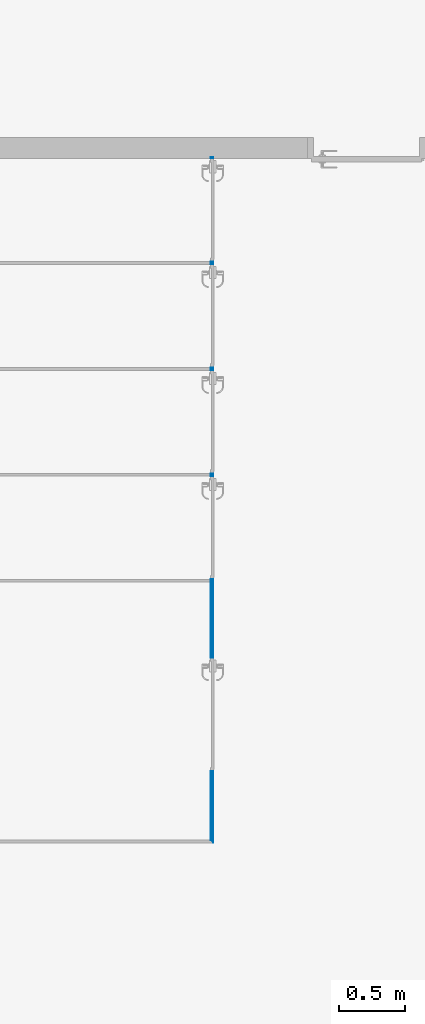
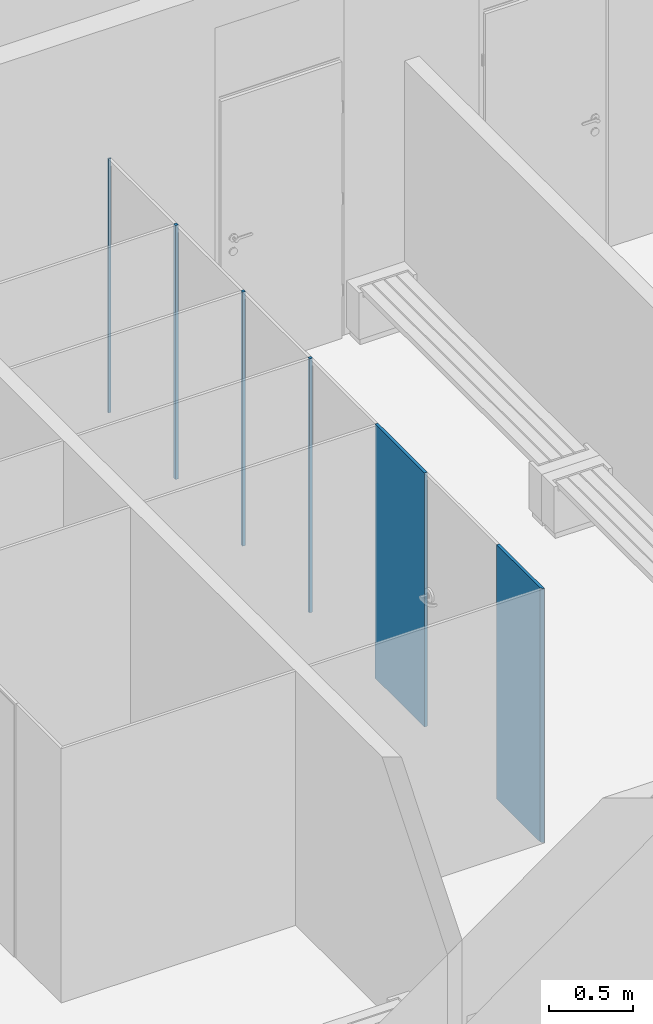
# One storey, part 19 of 45: 1 wall, 5 openings.
"""IFC2X3 building model written with IfcOpenShell, lengths in metres."""

from ifc_helpers import new_model, entity, si_unit, converted_unit, money_unit, direction, frame, origin_with_axes, place, context, subcontext, project, spatial, polyline, outline, extrude, material, layer, layer_set, layer_usage, type_object, element, save


model = new_model("IFC2X3")

# Units and contexts
model_context = context("Model", 3, precision=1e-05, world=origin_with_axes(), true_north=direction((0.0, 1.0)))
body_context = subcontext(model_context, "Body", "Model", "MODEL_VIEW")
ifc_project = project(units=[si_unit("LENGTHUNIT", "METRE"), si_unit("AREAUNIT", "SQUARE_METRE"), si_unit("VOLUMEUNIT", "CUBIC_METRE"), converted_unit("PLANEANGLEUNIT", "DEGREE", entity("IfcPlaneAngleMeasure", 0.0174532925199), si_unit("PLANEANGLEUNIT", "RADIAN"), dimensions=[0, 0, 0, 0, 0, 0, 0]), si_unit("SOLIDANGLEUNIT", "STERADIAN"), money_unit("EUR"), converted_unit("TIMEUNIT", "Year", entity("IfcTimeMeasure", 31556926.0), si_unit("TIMEUNIT", "SECOND"), dimensions=[0, 0, 0, 0, 0, 0, 0]), si_unit("MASSUNIT", "GRAM"), si_unit("THERMODYNAMICTEMPERATUREUNIT", "DEGREE_CELSIUS"), si_unit("LUMINOUSINTENSITYUNIT", "LUMEN")], contexts=[model_context])

# Site, building, storey
site_placement = place(None, origin_with_axes())
site = spatial("IfcSite", under=ifc_project, at=site_placement, Name="Site", CompositionType="ELEMENT")
building_placement = place(site_placement, origin_with_axes())
building = spatial("IfcBuilding", under=site, at=building_placement, Name="Bâtiment", CompositionType="ELEMENT")
storey_placement = place(building_placement, origin_with_axes())
storey = spatial("IfcBuildingStorey", under=building, at=storey_placement, Name="NIVEAU BAS GYMNASE", CompositionType="ELEMENT", Elevation=0.0)

# Wall, openings
ifc_material = material(Name="Hachure solide 3821565075")
ifc_layer = layer(ifc_material, 0.02, ventilated="UNKNOWN")
ifc_layer_set = layer_set([ifc_layer], Name="Hachure solide 3821565075 0.02")
ifc_layer_usage = layer_usage(ifc_layer_set, "AXIS2", "POSITIVE", -0.02)
wall_type = type_object("IfcWallType", Name="Hachure solide 3821565075 20", PredefinedType="NOTDEFINED")
wall_placement = place(storey_placement, frame((57.3282132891, 7.95895676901, 0.0), z_axis=(0.0, 0.0, 1.0), x_axis=(0.0, 1.0, 0.0)))
wall = element("IfcWallStandardCase", 1, at=wall_placement, inside=storey, type_object=wall_type, material=ifc_layer_usage, Name="Mur-022", context=body_context, shape_type="SweptSolid", body=[
    extrude(outline(polyline([(-0.02, -0.02), (5.15985894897, -0.02), (5.15985894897, 0.0), (0.0, 0.0), (-0.02, -0.02)])), origin_with_axes(), (0.0, 0.0, 1.0), 1.85),
])
opening_1_placement = place(wall_placement, frame((2.35973397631, 0.0, -0.02), z_axis=(0.0, 0.0, 1.0), x_axis=(1.0, 0.0, 0.0)))
element("IfcOpeningElement", 2, at=opening_1_placement, cuts=wall, Name="Por-017", context=body_context, shape_type="SweptSolid", body=[
    extrude(outline(polyline([(-0.39, 0.0), (-0.39, -1.87), (0.39, -1.87), (0.39, 0.0), (-0.39, 0.0)])), frame((0.0, 0.02, 0.0), z_axis=(0.0, -1.0, 0.0), x_axis=(-1.0, 0.0, 0.0)), (0.0, 0.0, 1.0), 0.04),
])
opening_2_placement = place(wall_placement, frame((3.15985894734, 0.0, -0.02), z_axis=(0.0, 0.0, 1.0), x_axis=(1.0, 0.0, 0.0)))
element("IfcOpeningElement", 3, at=opening_2_placement, cuts=wall, Name="Por-017", context=body_context, shape_type="SweptSolid", body=[
    extrude(outline(polyline([(-0.39, 0.0), (-0.39, -1.87), (0.39, -1.87), (0.39, 0.0), (-0.39, 0.0)])), frame((0.0, 0.02, 0.0), z_axis=(0.0, -1.0, 0.0), x_axis=(-1.0, 0.0, 0.0)), (0.0, 0.0, 1.0), 0.04),
])
opening_3_placement = place(wall_placement, frame((3.95985894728, 0.0, -0.02), z_axis=(0.0, 0.0, 1.0), x_axis=(1.0, 0.0, 0.0)))
element("IfcOpeningElement", 4, at=opening_3_placement, cuts=wall, Name="Por-018", context=body_context, shape_type="SweptSolid", body=[
    extrude(outline(polyline([(-0.39, 0.0), (-0.39, -1.87), (0.39, -1.87), (0.39, 0.0), (-0.39, 0.0)])), frame((0.0, 0.02, 0.0), z_axis=(0.0, -1.0, 0.0), x_axis=(-1.0, 0.0, 0.0)), (0.0, 0.0, 1.0), 0.04),
])
opening_4_placement = place(wall_placement, frame((4.75985894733, 0.0, -0.02), z_axis=(0.0, 0.0, 1.0), x_axis=(1.0, 0.0, 0.0)))
element("IfcOpeningElement", 5, at=opening_4_placement, cuts=wall, Name="Por-019", context=body_context, shape_type="SweptSolid", body=[
    extrude(outline(polyline([(-0.39, 0.0), (-0.39, -1.87), (0.39, -1.87), (0.39, 0.0), (-0.39, 0.0)])), frame((0.0, 0.02, 0.0), z_axis=(0.0, -1.0, 0.0), x_axis=(-1.0, 0.0, 0.0)), (0.0, 0.0, 1.0), 0.04),
])
opening_5_placement = place(wall_placement, frame((0.950033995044, 0.0, -0.02), z_axis=(0.0, 0.0, 1.0), x_axis=(1.0, 0.0, 0.0)))
element("IfcOpeningElement", 6, at=opening_5_placement, cuts=wall, Name="Por-019", context=body_context, shape_type="SweptSolid", body=[
    extrude(outline(polyline([(-0.43, 0.0), (-0.43, -1.87), (0.43, -1.87), (0.43, 0.0), (-0.43, 0.0)])), frame((0.0, 0.02, 0.0), z_axis=(0.0, -1.0, 0.0), x_axis=(-1.0, 0.0, 0.0)), (0.0, 0.0, 1.0), 0.04),
])

save(model, "model.ifc")
